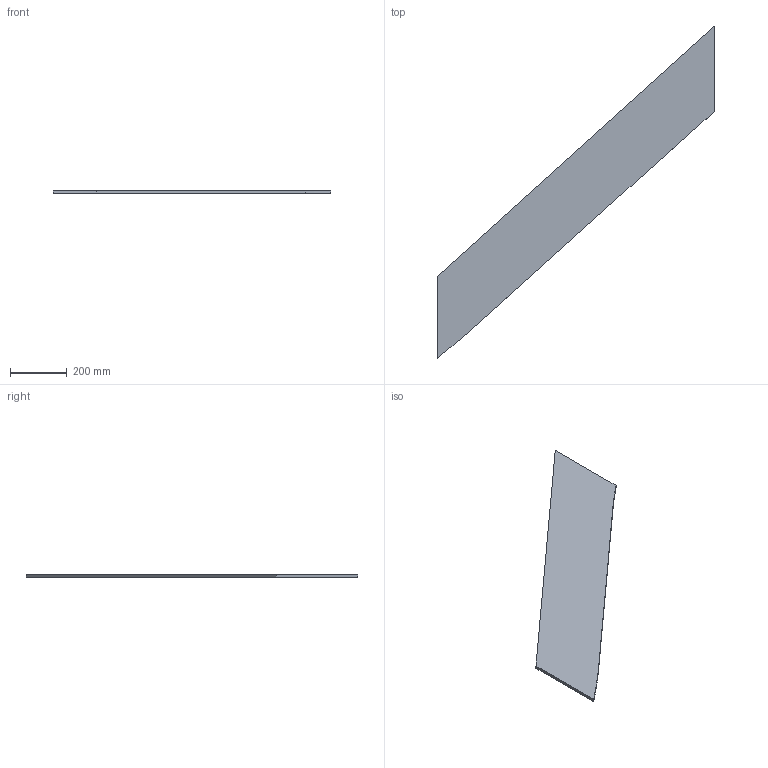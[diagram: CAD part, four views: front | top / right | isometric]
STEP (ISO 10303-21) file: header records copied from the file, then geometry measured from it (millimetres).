
FILE_DESCRIPTION(/* description */ (''),/* implementation_level */ '2;1');
FILE_NAME(/* name */ 'Pos115-Plaatwerk D= 10-S235JRG2-3st',/* time_stamp */ '2024-08-06T13:37:44+02:00',/* author */ (''),/* organization */ (''),/* preprocessor_version */ 'ST-DEVELOPER v16.5',/* originating_system */ 'HiCAD 2024 2901.2 Build 361',/* authorisation */ '');
FILE_SCHEMA (('AUTOMOTIVE_DESIGN { 1 0 10303 214 1 1 1 1 }'));
Length unit declared in the file: millimetre
Products named in the file (1): Pos115-Plaatwerk D= 10-S235JRG2-3st
Bounding box: 975 x 1165.45 x 10 mm (x, y, z)
Volume: 2884828.2 mm3; surface area: 609002 mm2
Topology: 1 solids, 1 shells, 8 faces, 40 edges, 56 vertices
Faces by surface type: plane 6, cylinder 2
Entity records: 734 total; most frequent: CARTESIAN_POINT 104, DIRECTION 60, PRESENTATION_STYLE_ASSIGNMENT 59, COLOUR_RGB 38, DRAUGHTING_PRE_DEFINED_CURVE_FONT 36, CURVE_STYLE 36, OVER_RIDING_STYLED_ITEM 36, ORIENTED_EDGE 36
